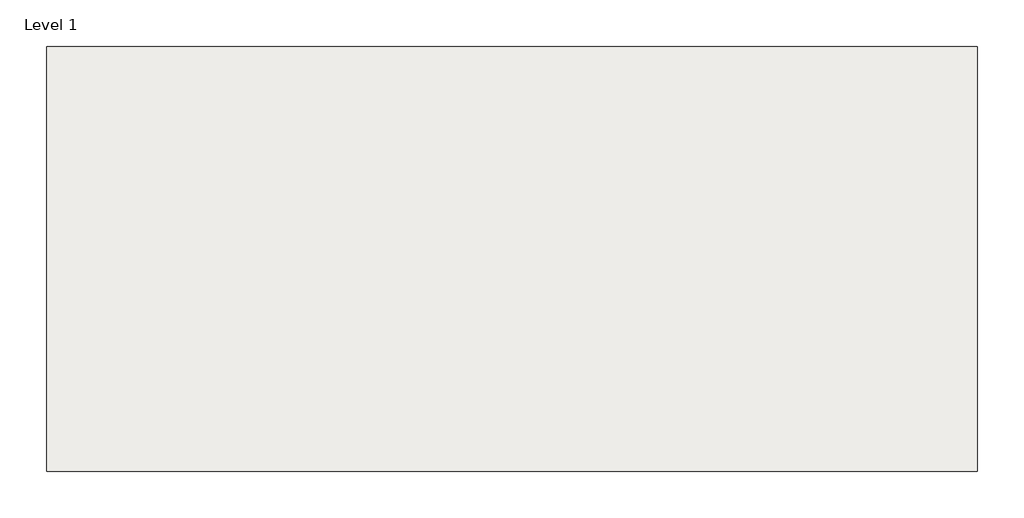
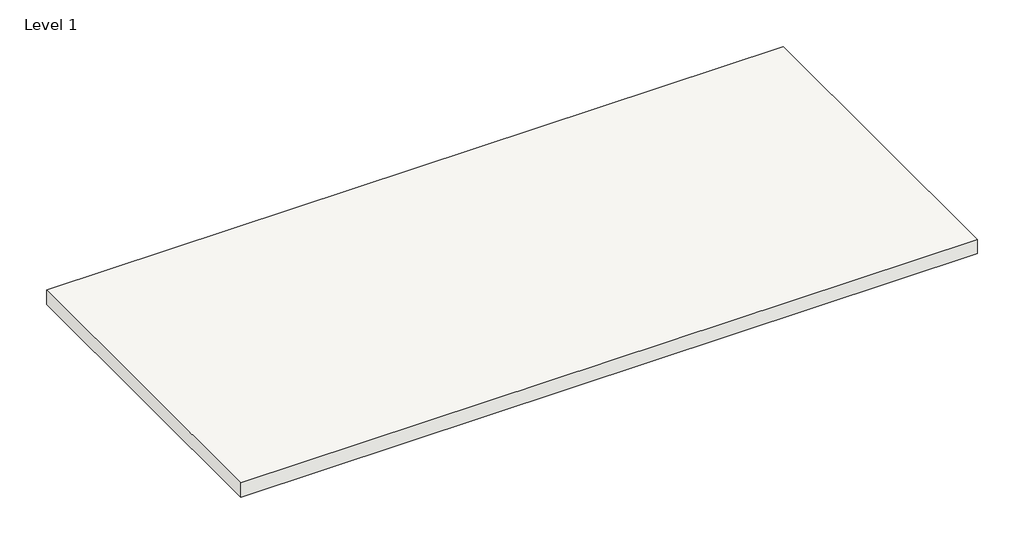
# One storey: 1 slab.
"""IFC4 building model written with IfcOpenShell, lengths in millimetres."""

from ifc_helpers import new_model, si_unit, frame, origin, place, context, project, spatial, polyline, outline, extrude, element, save

model = new_model("IFC4")

# Units and contexts
model_context = context("Model", 3, world=origin())
ifc_project = project(units=[si_unit("LENGTHUNIT", "METRE", prefix="MILLI")], contexts=[model_context])

# Site, building, storey
site = spatial("IfcSite", under=ifc_project)
building = spatial("IfcBuilding", under=site)
storey = spatial("IfcBuildingStorey", under=building, Name="Level 1", Elevation=0.0)

# Slab
placement = place(None, origin())
element("IfcSlab", 1, ObjectType="Generic - 12\"", at=placement, inside=storey, context=model_context, shape_type="SweptSolid", body=[
    extrude(outline(polyline([(-2949.3863819, 2704.7856777), (-2949.3863819, -4000.8143223), (-17632.513908, -4000.8143223), (-17632.513908, 2704.7856777), (-2949.3863819, 2704.7856777)])), frame((0.0, 0.0, -304.8), z_axis=(0.0, 0.0, 1.0), x_axis=(1.0, 0.0, 0.0)), (0.0, 0.0, 1.0), 304.8),
])

save(model, "model.ifc")
